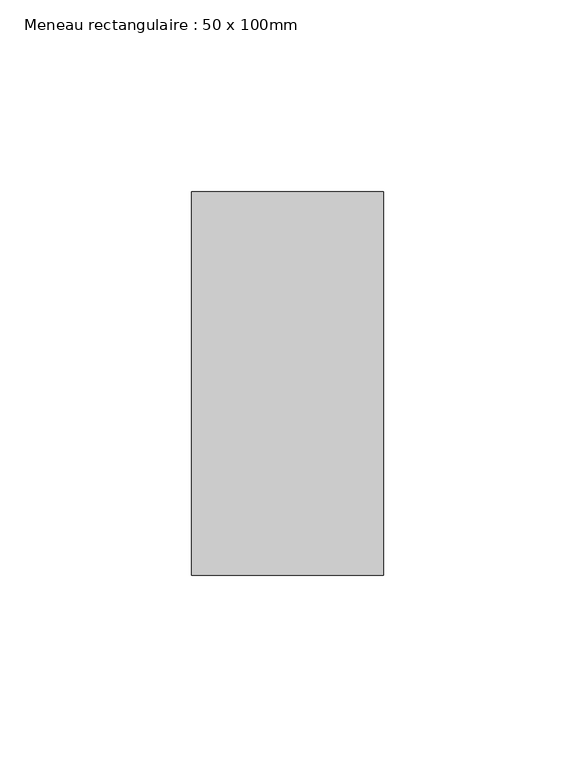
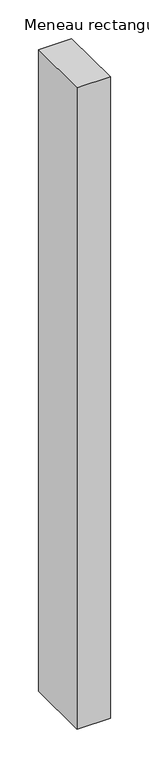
"""IFC4 building model written with IfcOpenShell, lengths in millimetres: member geometry, Meneau rectangulaire : 50 x 100mm."""

from ifc_helpers import new_model, si_unit, frame, origin, place, context, project, spatial, polyline, outline, extrude, source, transform, mapped, element, save


def meneau_rectangulaire_50_x_100mm_7e632c28(model_context):
    return source(origin(), model_context, "Body", "SweptSolid", [
        extrude(outline(polyline([(25.0, 50.0), (25.0, -50.0), (-25.0, -50.0), (-25.0, 50.0), (25.0, 50.0)])), frame((0.0, 0.0, -1015.0705103), z_axis=(0.0, 0.0, 1.0), x_axis=(1.0, 0.0, 0.0)), (0.0, 0.0, 1.0), 1015.0705103),
    ])


if __name__ == "__main__":
    model = new_model("IFC4")
    model_context = context("Model", 3, world=origin())
    ifc_project = project(units=[si_unit("LENGTHUNIT", "METRE", prefix="MILLI")], contexts=[model_context])
    site = spatial("IfcSite", under=ifc_project)
    building = spatial("IfcBuilding", under=site)
    placement = place(None, origin())
    meneau_rectangulaire_50_x_100mm_shape = meneau_rectangulaire_50_x_100mm_7e632c28(model_context)
    element("IfcMember", 1, ObjectType="Meneau rectangulaire : 50 x 100mm", at=placement, inside=building, context=model_context, shape_type="MappedRepresentation", body=[
        mapped(meneau_rectangulaire_50_x_100mm_shape, transform((0.0, 0.0, 0.0), x_axis=(1.0, 0.0, 0.0), y_axis=(0.0, 1.0, 0.0), z_axis=(0.0, 0.0, 1.0))),
    ])
    save(model, "model.ifc")
